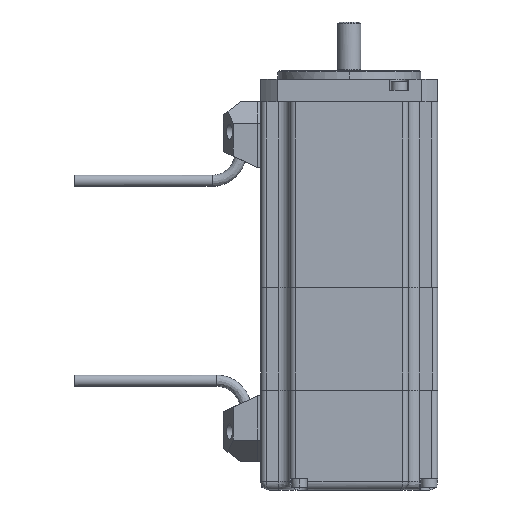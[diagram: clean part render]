
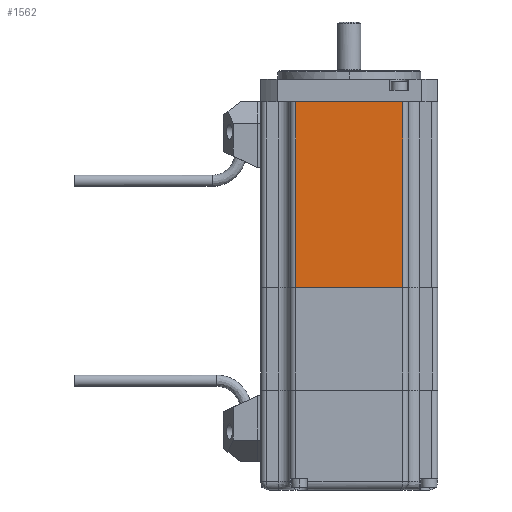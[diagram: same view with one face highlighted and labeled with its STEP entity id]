
A CAD part, left-side view. The second image highlights one B-rep face of the part: STEP entity #1562.
In plain terms, the highlighted planar face has unit normal (-1, 0, 0).
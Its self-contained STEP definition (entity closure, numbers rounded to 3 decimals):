
#1562=ADVANCED_FACE('',(#4561),#4560,.T.);
#4560=PLANE('',#16882);
#4561=FACE_OUTER_BOUND('',#16883,.T.);
#16879=CARTESIAN_POINT('',(-31.,-22.498,-82.5));
#16880=DIRECTION('',(-1.,0.,0.));
#16881=DIRECTION('',(0.,0.,1.));
#16882=AXIS2_PLACEMENT_3D('',#16879,#16880,#16881);
#16883=EDGE_LOOP('',(#26651,#26652,#26653,#26654));
#26651=ORIENTED_EDGE('',*,*,#32311,.F.);
#26652=ORIENTED_EDGE('',*,*,#32291,.T.);
#26653=ORIENTED_EDGE('',*,*,#32310,.T.);
#26654=ORIENTED_EDGE('',*,*,#32240,.F.);
#32240=EDGE_CURVE('',#37699,#37706,#37707,.T.);
#32291=EDGE_CURVE('',#38063,#38056,#38064,.T.);
#32310=EDGE_CURVE('',#38056,#37706,#38190,.T.);
#32311=EDGE_CURVE('',#38063,#37699,#38196,.T.);
#37699=VERTEX_POINT('',#56846);
#37706=VERTEX_POINT('',#56851);
#37707=LINE('',#56852,#56853);
#38056=VERTEX_POINT('',#57082);
#38063=VERTEX_POINT('',#57087);
#38064=LINE('',#57088,#57089);
#38190=LINE('',#57168,#57169);
#38196=LINE('',#57171,#57172);
#56846=CARTESIAN_POINT('',(-31.,-18.749,-76.));
#56851=CARTESIAN_POINT('',(-31.,18.749,-76.));
#56852=CARTESIAN_POINT('',(-31.,-18.749,-76.));
#56853=VECTOR('',#56854,37.497);
#56854=DIRECTION('',(0.,1.,0.));
#57082=CARTESIAN_POINT('',(-31.,18.749,-11.));
#57087=CARTESIAN_POINT('',(-31.,-18.749,-11.));
#57088=CARTESIAN_POINT('',(-31.,-18.749,-11.));
#57089=VECTOR('',#57090,37.497);
#57090=DIRECTION('',(0.,1.,0.));
#57168=CARTESIAN_POINT('',(-31.,18.749,-11.));
#57169=VECTOR('',#57170,65.);
#57170=DIRECTION('',(0.,0.,-1.));
#57171=CARTESIAN_POINT('',(-31.,-18.749,-11.));
#57172=VECTOR('',#57173,65.);
#57173=DIRECTION('',(0.,0.,-1.));
